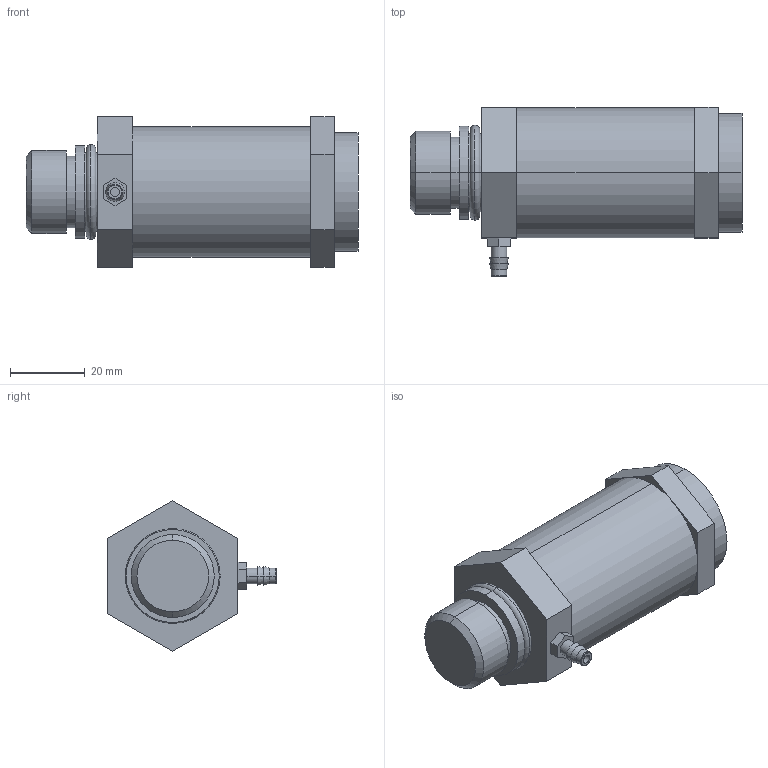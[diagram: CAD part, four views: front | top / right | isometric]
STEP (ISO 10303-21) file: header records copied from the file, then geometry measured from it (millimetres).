
FILE_DESCRIPTION((''),'2;1');
FILE_NAME('UF3_ASM','2017-08-24T',('jennifer.elliott'),('CenterLine (Windsor) Ltd - Automation Components Division'),'PRO/ENGINEER BY PARAMETRIC TECHNOLOGY CORPORATION, 2015030','PRO/ENGINEER BY PARAMETRIC TECHNOLOGY CORPORATION, 2015030','');
FILE_SCHEMA(('AUTOMOTIVE_DESIGN { 1 0 10303 214 1 1 1 1 }'));
Length unit declared in the file: inch
Products named in the file (7): PRT0134; PRT0135; PRT0136; PRT0137; PRT0138; PRT0139; UF3_ASM
Assembly tree (6 placements, depth 2):
  UF3_ASM
    PRT0134
    PRT0135
    PRT0136
    PRT0137
    PRT0138
    PRT0139
Bounding box: 88.9 x 45.24 x 40.33 mm (x, y, z)
Volume: 75145.1 mm3; surface area: 18140.5 mm2
Topology: 6 solids, 6 shells, 67 faces, 138 edges, 88 vertices
Faces by surface type: plane 35, cylinder 18, torus 8, cone 6
Entity records: 2227 total; most frequent: DIRECTION 358, CARTESIAN_POINT 325, ORIENTED_EDGE 276, AXIS2_PLACEMENT_3D 140, EDGE_CURVE 138, VERTEX_POINT 88, VECTOR 78, LINE 78
